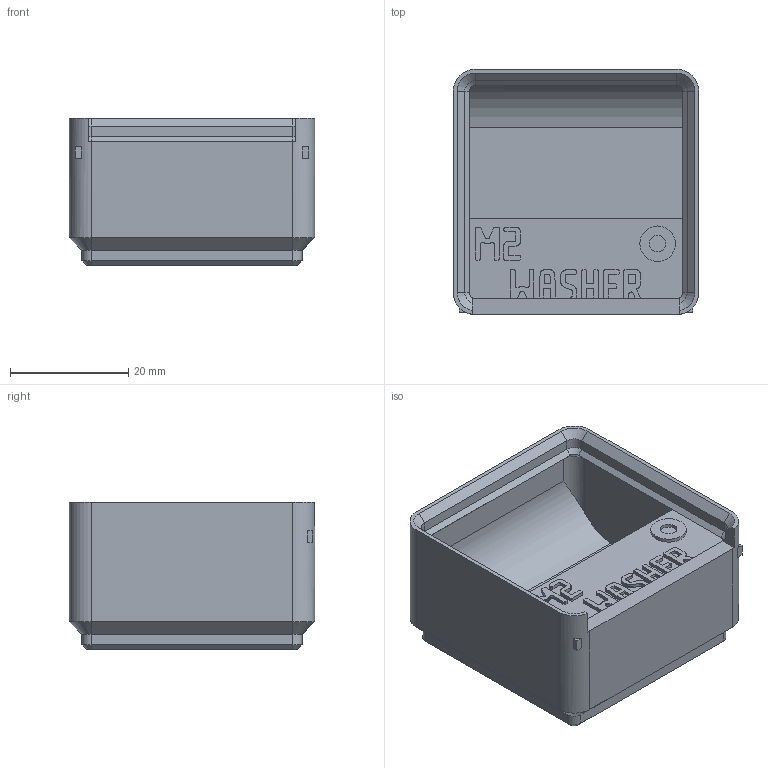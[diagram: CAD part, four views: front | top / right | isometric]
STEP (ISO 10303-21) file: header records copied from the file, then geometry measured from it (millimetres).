
FILE_DESCRIPTION(('Open CASCADE Model'),'2;1');
FILE_NAME('Open CASCADE Shape Model','2026-11-03T10:34:42',('Author'),( 'Open CASCADE'),'Open CASCADE STEP processor 8.0','build123d', 'Unknown');
FILE_SCHEMA(('AUTOMOTIVE_DESIGN { 1 0 10303 214 1 1 1 1 }'));
Products named in the file (1): COMPOUND
Bounding box: 41.5 x 41.5 x 24.9 mm (x, y, z)
Volume: 13301.3 mm3; surface area: 10990.5 mm2
Topology: 1 solids, 1 shells, 950 faces, 2784 edges, 1840 vertices
Faces by surface type: plane 911, cone 20, cylinder 19
Full cylindrical faces by diameter (mm): 2.8 x1, 6 x1
Entity records: 65166 total; most frequent: CARTESIAN_POINT 13829, DIRECTION 8024, LINE 5986, VECTOR 5986, ORIENTED_EDGE 5568, PCURVE 5568, DEFINITIONAL_REPRESENTATION 5568, EDGE_CURVE 2784
